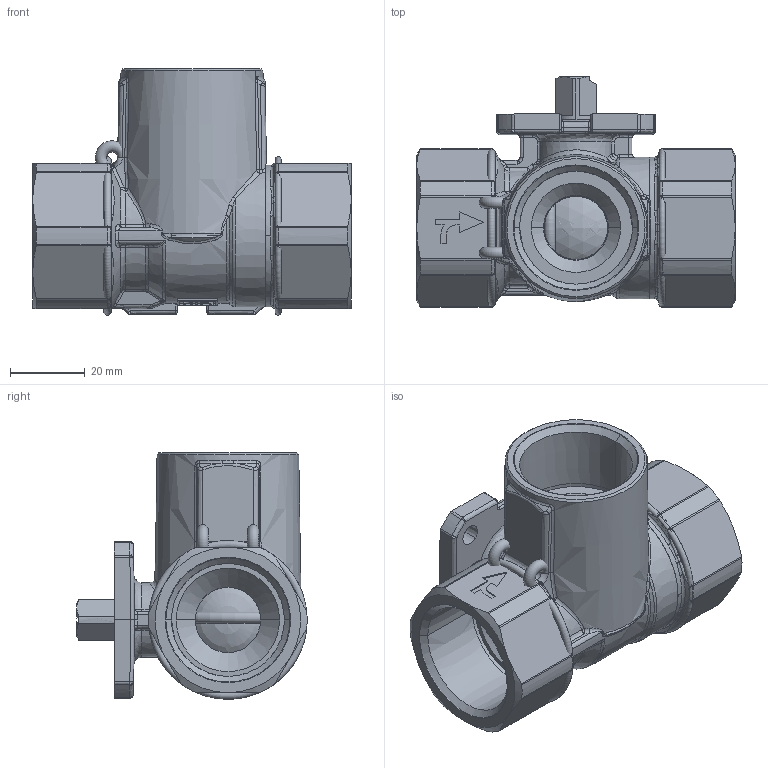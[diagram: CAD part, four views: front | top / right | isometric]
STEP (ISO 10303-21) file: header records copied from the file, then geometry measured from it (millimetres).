
FILE_DESCRIPTION((''),'2;1');
FILE_NAME('H980T1025_1369_ASM','2010-04-12T',('62marco'),(''),'PRO/ENGINEER BY PARAMETRIC TECHNOLOGY CORPORATION, 2008170','PRO/ENGINEER BY PARAMETRIC TECHNOLOGY CORPORATION, 2008170','');
FILE_SCHEMA(('CONFIG_CONTROL_DESIGN'));
Products named in the file (7): CC980T025_1219_SAUTER; CXKBT1020_1163; CXH98M020_155; CXP980015_92; CINBS1020_155; CM98GF025_1176; H980T1025_1369_ASM
Assembly tree (7 placements, depth 2):
  H980T1025_1369_ASM
    CC980T025_1219_SAUTER
    CXKBT1020_1163
    CXH98M020_155  x2
    CXP980015_92
    CINBS1020_155
    CM98GF025_1176
Bounding box: 85.4 x 61.75 x 66.05 mm (x, y, z)
Surface area: 73763.6 mm2 (no closed solid volume)
Topology: 0 solids, 0 shells, 1278 faces, 6523 edges, 6453 vertices
Faces by surface type: bspline 1156, torus 90, sphere 32
Entity records: 110058 total; most frequent: CARTESIAN_POINT 55161, DIRECTION 8299, TRIMMED_CURVE 7198, VECTOR 6365, LINE 6365, DEFINITIONAL_REPRESENTATION 6284, PCURVE 6284, COMPOSITE_CURVE_SEGMENT 6284
